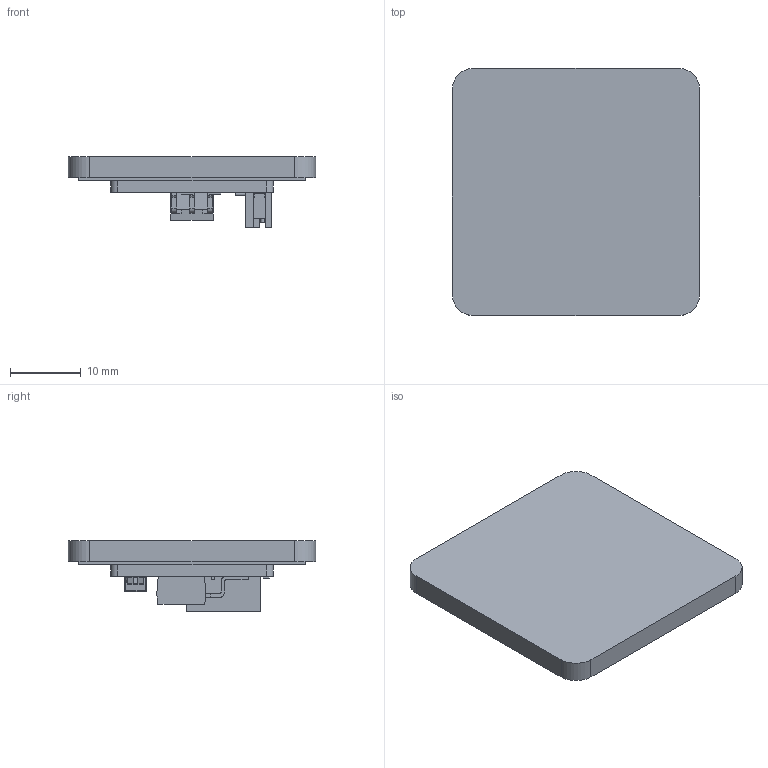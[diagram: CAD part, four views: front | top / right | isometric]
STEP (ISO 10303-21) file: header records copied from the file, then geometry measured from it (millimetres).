
FILE_DESCRIPTION (( 'STEP AP214' ), '1' );
FILE_NAME ('FusionAMP Remote Kit 01xx.STEP', '2018-04-17T14:12:06', ( '' ), ( '' ), 'SwSTEP 2.0', 'SolidWorks 2017', '' );
FILE_SCHEMA (( 'AUTOMOTIVE_DESIGN' ));
Length unit declared in the file: millimetre
Products named in the file (4): FusionAMP Front Tape; FusionAMP Remote Kit 01xx; FusionAMP Front IR-Panel; PCBA MP-DSP Front B01
Assembly tree (3 placements, depth 2):
  FusionAMP Remote Kit 01xx
    FusionAMP Front IR-Panel
    FusionAMP Front Tape
    PCBA MP-DSP Front B01
Bounding box: 35 x 35 x 10.04 mm (x, y, z)
Volume: 5191 mm3; surface area: 6701.5 mm2
Topology: 12 solids, 12 shells, 443 faces, 1128 edges, 691 vertices
Faces by surface type: plane 217, bspline 114, cylinder 108, cone 4
Entity records: 22315 total; most frequent: CARTESIAN_POINT 7537, ORIENTED_EDGE 2194, DIRECTION 1763, EDGE_CURVE 1097, LINE 697, VECTOR 697, VERTEX_POINT 691, AXIS2_PLACEMENT_3D 533
